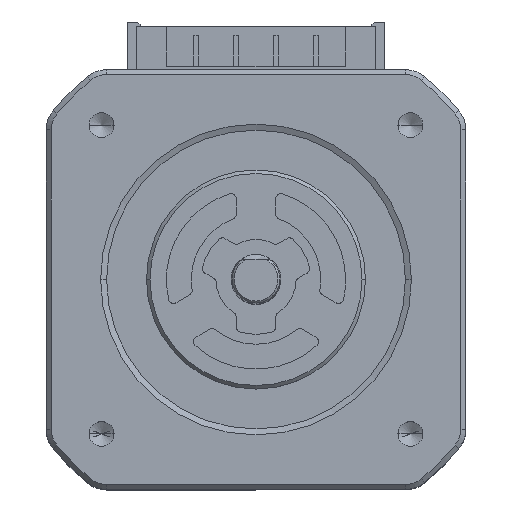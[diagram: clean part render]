
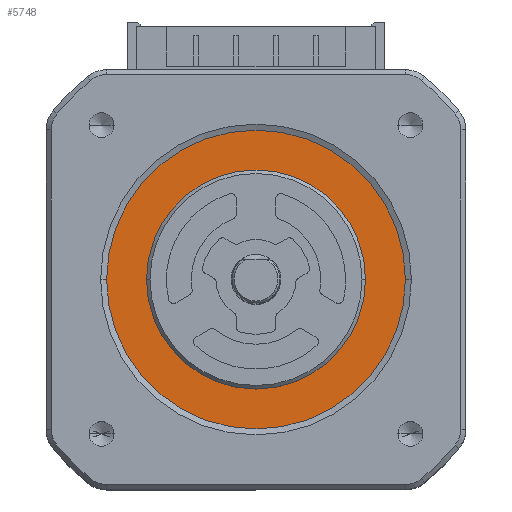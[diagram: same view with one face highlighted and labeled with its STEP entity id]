
A CAD part, top view. The second image highlights one B-rep face of the part: STEP entity #5748.
In plain terms, the highlighted planar face has unit normal (0, 0, 1).
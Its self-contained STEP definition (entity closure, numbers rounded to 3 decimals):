
#347 = ORIENTED_EDGE ( 'NONE', *, *, #6803, .T. ) ;
#516 = CARTESIAN_POINT ( 'NONE',  ( 15., 0., -0.3 ) ) ;
#597 = CARTESIAN_POINT ( 'NONE',  ( 0., 0., -0.3 ) ) ;
#677 = CARTESIAN_POINT ( 'NONE',  ( 0., 0., -0.3 ) ) ;
#998 = EDGE_CURVE ( 'NONE', #7228, #2594, #3626, .T. ) ;
#1741 = DIRECTION ( 'NONE',  ( 1., 0., 0. ) ) ;
#1848 = VERTEX_POINT ( 'NONE', #516 ) ;
#2109 = EDGE_CURVE ( 'NONE', #2594, #7228, #9298, .T. ) ;
#2594 = VERTEX_POINT ( 'NONE', #13130 ) ;
#2598 = AXIS2_PLACEMENT_3D ( 'NONE', #597, #3697, #9090 ) ;
#2700 = EDGE_LOOP ( 'NONE', ( #3752, #10177 ) ) ;
#2951 = AXIS2_PLACEMENT_3D ( 'NONE', #3272, #12606, #9514 ) ;
#3272 = CARTESIAN_POINT ( 'NONE',  ( 0., 0., -0.3 ) ) ;
#3465 = VERTEX_POINT ( 'NONE', #6254 ) ;
#3626 = CIRCLE ( 'NONE', #2598, 10.995 ) ;
#3697 = DIRECTION ( 'NONE',  ( 0., 0., 1. ) ) ;
#3752 = ORIENTED_EDGE ( 'NONE', *, *, #998, .F. ) ;
#4177 = AXIS2_PLACEMENT_3D ( 'NONE', #11744, #5502, #12806 ) ;
#4460 = CIRCLE ( 'NONE', #7296, 15. ) ;
#4887 = EDGE_LOOP ( 'NONE', ( #10324, #347 ) ) ;
#5502 = DIRECTION ( 'NONE',  ( 0., 0., 1. ) ) ;
#5748 = ADVANCED_FACE ( 'NONE', ( #6440, #9217 ), #12301, .T. ) ;
#6204 = CIRCLE ( 'NONE', #4177, 15. ) ;
#6254 = CARTESIAN_POINT ( 'NONE',  ( -15., 0., -0.3 ) ) ;
#6440 = FACE_OUTER_BOUND ( 'NONE', #4887, .T. ) ;
#6803 = EDGE_CURVE ( 'NONE', #3465, #1848, #4460, .T. ) ;
#7056 = CARTESIAN_POINT ( 'NONE',  ( 0., 15., -0.3 ) ) ;
#7097 = DIRECTION ( 'NONE',  ( 1., 0., 0. ) ) ;
#7228 = VERTEX_POINT ( 'NONE', #11815 ) ;
#7296 = AXIS2_PLACEMENT_3D ( 'NONE', #677, #7951, #1741 ) ;
#7784 = EDGE_CURVE ( 'NONE', #1848, #3465, #6204, .T. ) ;
#7951 = DIRECTION ( 'NONE',  ( 0., 0., 1. ) ) ;
#9090 = DIRECTION ( 'NONE',  ( 1., 0., 0. ) ) ;
#9217 = FACE_BOUND ( 'NONE', #2700, .T. ) ;
#9298 = CIRCLE ( 'NONE', #2951, 10.995 ) ;
#9514 = DIRECTION ( 'NONE',  ( 1., 0., 0. ) ) ;
#10177 = ORIENTED_EDGE ( 'NONE', *, *, #2109, .F. ) ;
#10324 = ORIENTED_EDGE ( 'NONE', *, *, #7784, .T. ) ;
#11744 = CARTESIAN_POINT ( 'NONE',  ( 0., 0., -0.3 ) ) ;
#11815 = CARTESIAN_POINT ( 'NONE',  ( -10.995, 0., -0.3 ) ) ;
#12301 = PLANE ( 'NONE',  #12794 ) ;
#12606 = DIRECTION ( 'NONE',  ( 0., 0., 1. ) ) ;
#12794 = AXIS2_PLACEMENT_3D ( 'NONE', #7056, #13334, #7097 ) ;
#12806 = DIRECTION ( 'NONE',  ( 1., 0., 0. ) ) ;
#13130 = CARTESIAN_POINT ( 'NONE',  ( 10.995, 0., -0.3 ) ) ;
#13334 = DIRECTION ( 'NONE',  ( 0., 0., 1. ) ) ;
